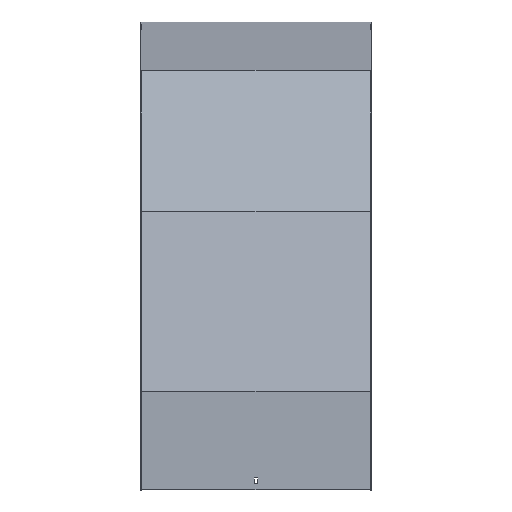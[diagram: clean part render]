
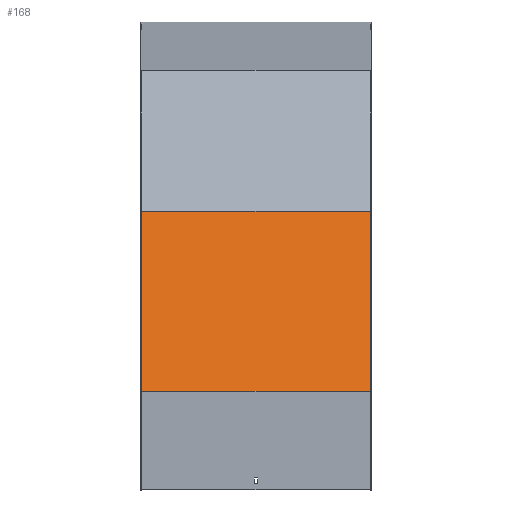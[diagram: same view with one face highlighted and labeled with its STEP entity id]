
A CAD part, top view. The second image highlights one B-rep face of the part: STEP entity #168.
In plain terms, the highlighted planar face has unit normal (0, 0.259, 0.966).
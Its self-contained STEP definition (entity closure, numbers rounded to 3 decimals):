
#52 = VECTOR ( 'NONE', #541, 1000. ) ;
#163 = EDGE_CURVE ( 'NONE', #762, #422, #1048, .T. ) ;
#168 = ADVANCED_FACE ( 'NONE', ( #185 ), #710, .F. ) ;
#178 = DIRECTION ( 'NONE',  ( -1., 0., 0. ) ) ;
#185 = FACE_OUTER_BOUND ( 'NONE', #725, .T. ) ;
#224 = ORIENTED_EDGE ( 'NONE', *, *, #163, .F. ) ;
#248 = CARTESIAN_POINT ( 'NONE',  ( -201.5, -317.096, 737.158 ) ) ;
#255 = LINE ( 'NONE', #352, #410 ) ;
#269 = CARTESIAN_POINT ( 'NONE',  ( 201.5, -317.096, 737.158 ) ) ;
#280 = DIRECTION ( 'NONE',  ( 0., 0.966, -0.259 ) ) ;
#311 = CARTESIAN_POINT ( 'NONE',  ( 201.5, -311.92, 735.771 ) ) ;
#352 = CARTESIAN_POINT ( 'NONE',  ( 201.5, -311.92, 735.771 ) ) ;
#387 = ORIENTED_EDGE ( 'NONE', *, *, #436, .F. ) ;
#409 = ORIENTED_EDGE ( 'NONE', *, *, #500, .T. ) ;
#410 = VECTOR ( 'NONE', #178, 1000. ) ;
#422 = VERTEX_POINT ( 'NONE', #897 ) ;
#436 = EDGE_CURVE ( 'NONE', #754, #762, #640, .T. ) ;
#497 = CARTESIAN_POINT ( 'NONE',  ( 201.5, -627.77, 820.403 ) ) ;
#500 = EDGE_CURVE ( 'NONE', #1067, #422, #1109, .T. ) ;
#541 = DIRECTION ( 'NONE',  ( 0., -0.966, 0.259 ) ) ;
#550 = DIRECTION ( 'NONE',  ( 0., -0.259, -0.966 ) ) ;
#566 = DIRECTION ( 'NONE',  ( 0., -0.966, 0.259 ) ) ;
#640 = LINE ( 'NONE', #675, #927 ) ;
#675 = CARTESIAN_POINT ( 'NONE',  ( 201.5, -317.096, 737.158 ) ) ;
#706 = CARTESIAN_POINT ( 'NONE',  ( 201.5, -627.77, 820.403 ) ) ;
#710 = PLANE ( 'NONE',  #1030 ) ;
#725 = EDGE_LOOP ( 'NONE', ( #409, #224, #387, #987 ) ) ;
#754 = VERTEX_POINT ( 'NONE', #311 ) ;
#762 = VERTEX_POINT ( 'NONE', #497 ) ;
#862 = VECTOR ( 'NONE', #1034, 1000. ) ;
#868 = CARTESIAN_POINT ( 'NONE',  ( -201.5, -311.92, 735.771 ) ) ;
#897 = CARTESIAN_POINT ( 'NONE',  ( -201.5, -627.77, 820.403 ) ) ;
#927 = VECTOR ( 'NONE', #566, 1000. ) ;
#987 = ORIENTED_EDGE ( 'NONE', *, *, #1047, .T. ) ;
#1030 = AXIS2_PLACEMENT_3D ( 'NONE', #269, #550, #280 ) ;
#1034 = DIRECTION ( 'NONE',  ( -1., 0., 0. ) ) ;
#1047 = EDGE_CURVE ( 'NONE', #754, #1067, #255, .T. ) ;
#1048 = LINE ( 'NONE', #706, #862 ) ;
#1067 = VERTEX_POINT ( 'NONE', #868 ) ;
#1109 = LINE ( 'NONE', #248, #52 ) ;
